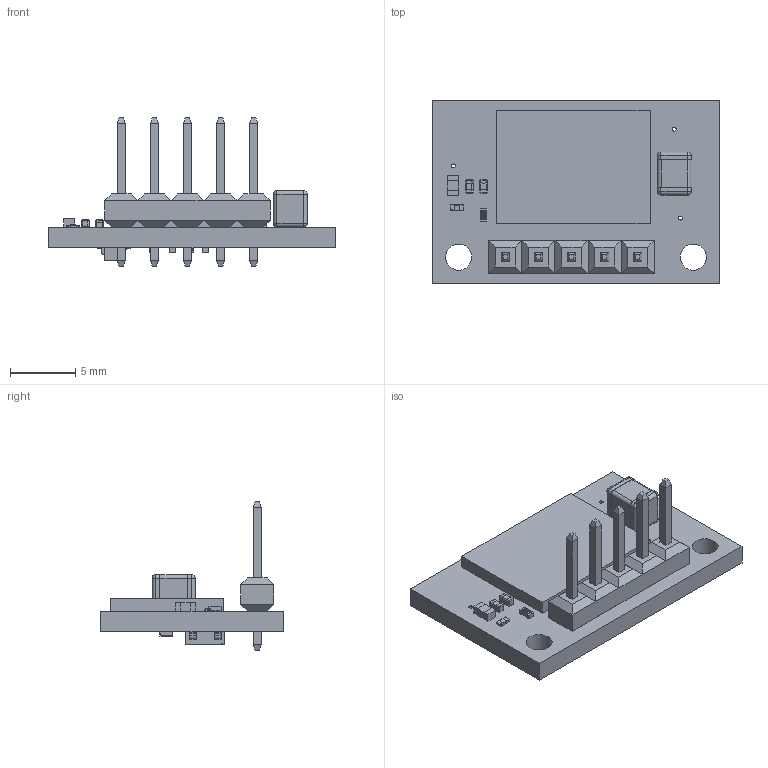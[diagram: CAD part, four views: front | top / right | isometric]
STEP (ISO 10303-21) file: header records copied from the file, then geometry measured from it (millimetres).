
FILE_DESCRIPTION(/* description */ (''),/* implementation_level */ '2;1');
FILE_NAME(/* name */ 'C:/Users/priba/Documents/Temp/Export/mrm-therm-b v1.step',/* time_stamp */ '2019-09-09T00:19:28+02:00',/* author */ (''),/* organization */ (''),/* preprocessor_version */ 'ST-DEVELOPER v18',/* originating_system */ 'Autodesk Translation Framework v8.6.0.1094',/* authorisation */ '');
FILE_SCHEMA (('AUTOMOTIVE_DESIGN { 1 0 10303 214 3 1 1 }'));
Length unit declared in the file: millimetre
Products named in the file (16): mrm-therm-b; PCB Component; Board; 1.5 uF; 10 uF; Fillet1; Fillet2; body2; 1X05; JUMPER-SMT_2_NO_NO-SILK; 10 kOhm; PANASONIC_AMG88XX; SOT-23; FIDUCIAL1X2; CHIPLED_0402; 1.5 kOhm
Assembly tree (27 placements, depth 4):
  mrm-therm-b
    PCB Component
      Board
      1.5 uF  x2
      10 uF
        Fillet1
        Fillet2
        body2
      1X05
      JUMPER-SMT_2_NO_NO-SILK  x3
      10 kOhm  x5
      PANASONIC_AMG88XX
      SOT-23
      FIDUCIAL1X2  x6
      CHIPLED_0402
      1.5 kOhm
Bounding box: 22 x 14 x 11.38 mm (x, y, z)
Volume: 686.7 mm3; surface area: 1365.7 mm2
Topology: 27 solids, 27 shells, 1029 faces, 2838 edges, 1868 vertices
Faces by surface type: plane 545, cylinder 324, sphere 128, bspline 32
Full cylindrical faces by diameter (mm): 0.3 x9, 1.016 x5, 2 x2
Entity records: 19687 total; most frequent: CARTESIAN_POINT 5208, ORIENTED_EDGE 2876, DIRECTION 2646, EDGE_CURVE 1438, VERTEX_POINT 912, AXIS2_PLACEMENT_3D 891, LINE 864, VECTOR 864
